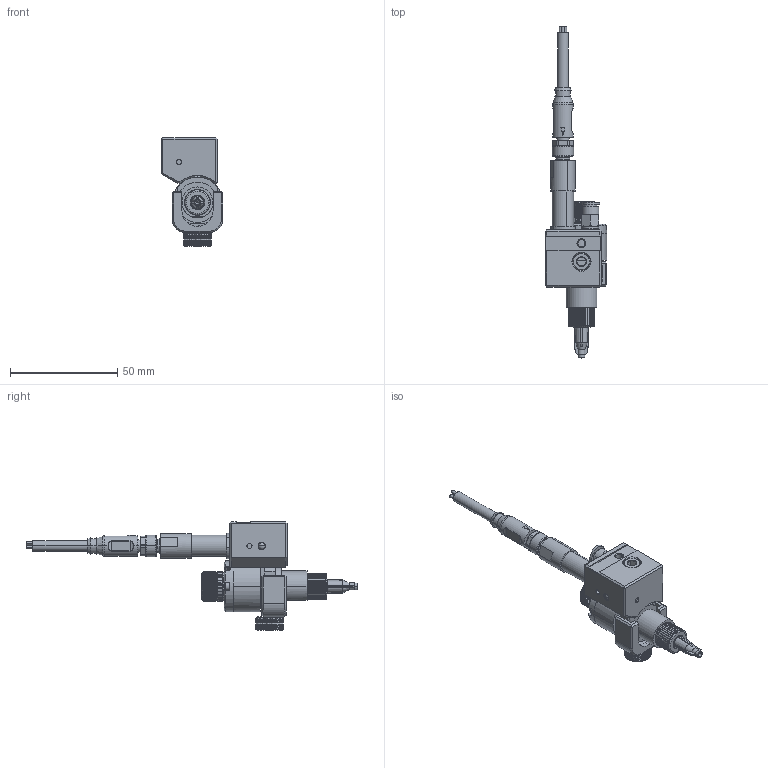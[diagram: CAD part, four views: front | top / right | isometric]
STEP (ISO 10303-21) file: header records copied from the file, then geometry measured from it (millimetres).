
FILE_DESCRIPTION (( 'STEP AP214' ), '1' );
FILE_NAME ('NORDSONEFD-7361761 VALVE XQR41 PEEK BULLET STR CTRL BP.STEP', '2021-11-01T00:54:05', ( '' ), ( '' ), 'SwSTEP 2.0', 'SolidWorks 2021', '' );
FILE_SCHEMA (( 'AUTOMOTIVE_DESIGN' ));
Length unit declared in the file: inch
Products named in the file (1): NORDSONEFD-7361761  VALVE XQR41 PEEK BULLET STR CTRL BP
Bounding box: 28.7 x 154.44 x 50.64 mm (x, y, z)
Surface area: 15037.7 mm2 (no closed solid volume)
Topology: 0 solids, 32 shells, 1721 faces, 5152 edges, 3300 vertices
Faces by surface type: bspline 745, plane 438, cylinder 382, cone 138, torus 14, sphere 4
Entity records: 66778 total; most frequent: CARTESIAN_POINT 30230, ORIENTED_EDGE 8496, EDGE_CURVE 5140, DIRECTION 4945, VERTEX_POINT 3294, EDGE_LOOP 1805, AXIS2_PLACEMENT_3D 1796, FACE_OUTER_BOUND 1721
